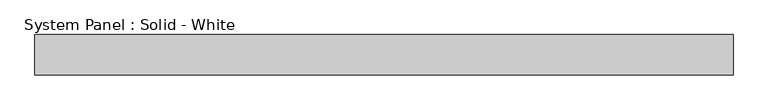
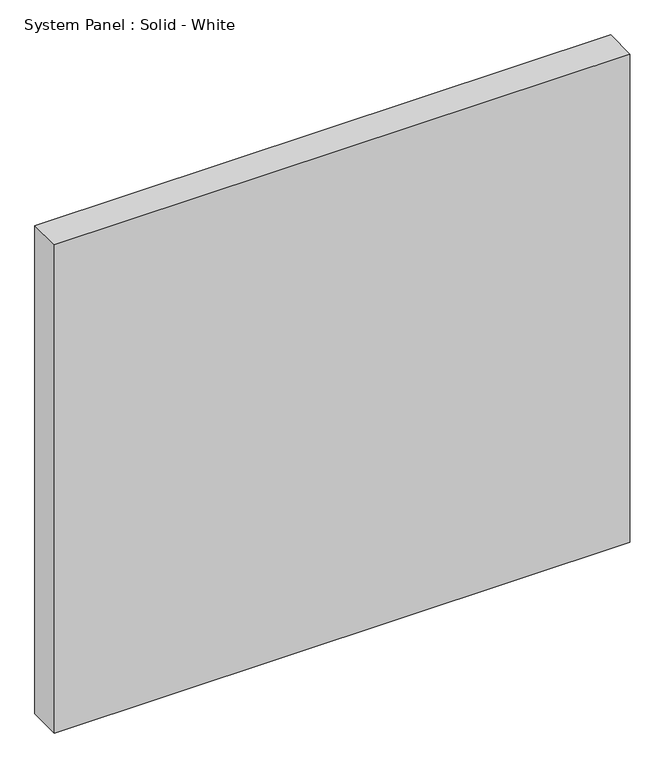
"""IFC4 building model written with IfcOpenShell, lengths in millimetres: plate geometry, System Panel : Solid - White."""

from ifc_helpers import new_model, si_unit, origin, origin_with_axes, place, context, project, spatial, polyline, outline, extrude, source, transform, mapped, element, save


def system_panel_solid_white_3c1d9ba8(model_context):
    return source(origin(), model_context, "Body", "SweptSolid", [
        extrude(outline(polyline([(546.4175, -44.45), (-546.4175, -44.45), (-546.4175, 19.05), (546.4175, 19.05), (546.4175, -44.45)])), origin_with_axes(), (0.0, 0.0, 1.0), 979.9108166),
    ])


if __name__ == "__main__":
    model = new_model("IFC4")
    model_context = context("Model", 3, world=origin())
    ifc_project = project(units=[si_unit("LENGTHUNIT", "METRE", prefix="MILLI")], contexts=[model_context])
    site = spatial("IfcSite", under=ifc_project)
    building = spatial("IfcBuilding", under=site)
    placement = place(None, origin())
    system_panel_solid_white_shape = system_panel_solid_white_3c1d9ba8(model_context)
    element("IfcPlate", 1, ObjectType="System Panel : Solid - White", at=placement, inside=building, context=model_context, shape_type="MappedRepresentation", body=[
        mapped(system_panel_solid_white_shape, transform((0.0, 0.0, 0.0), x_axis=(1.0, 0.0, 0.0), y_axis=(0.0, 1.0, 0.0), z_axis=(0.0, 0.0, 1.0))),
    ])
    save(model, "model.ifc")
